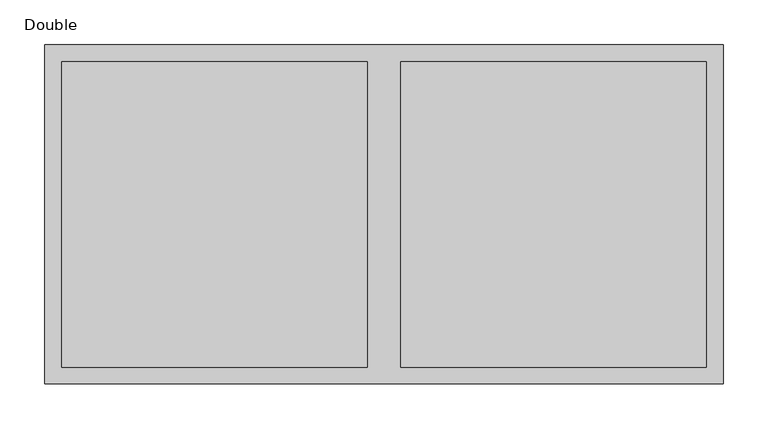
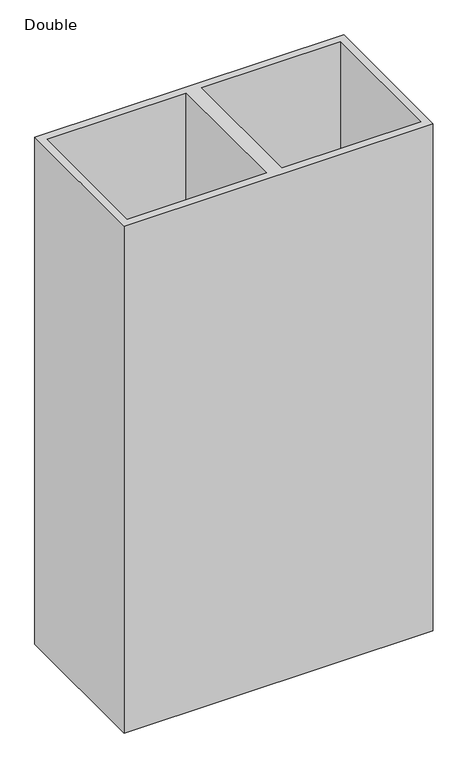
"""IFC4 building model written with IfcOpenShell, lengths in millimetres: furniture geometry, Stylex - Ambi - Planter : Double."""

from ifc_helpers import new_model, si_unit, origin, place, context, project, spatial, faceted_brep, source, transform, mapped, element, save


def double_013c9e70(model_context):
    return source(origin(), model_context, "Body", "Brep", [
        faceted_brep([(381.0, 190.5, 1320.8), (-381.0, 190.5, 1320.8), (-381.0, -190.5, 1320.8), (381.0, -190.5, 1320.8), (19.05, -171.45, 1320.8), (19.05, 171.45, 1320.8), (361.95, 171.45, 1320.8), (361.95, -171.45, 1320.8), (-19.05, 171.45, 1320.8), (-19.05, -171.45, 1320.8), (-361.95, -171.45, 1320.8), (-361.95, 171.45, 1320.8), (381.0, 190.5, 0.0), (381.0, -190.5, 0.0), (-381.0, -190.5, 0.0), (-381.0, 190.5, 0.0), (19.05, 171.45, 1041.4), (19.05, -171.45, 1041.4), (361.95, -171.45, 1041.4), (361.95, 171.45, 1041.4), (-19.05, 171.45, 1041.4), (-361.95, 171.45, 1041.4), (-361.95, -171.45, 1041.4), (-19.05, -171.45, 1041.4)], [[[0, 1, 2, 3], [4, 5, 6, 7], [8, 9, 10, 11]], [[12, 13, 14, 15]], [[1, 0, 12, 15]], [[2, 1, 15, 14]], [[3, 2, 14, 13]], [[0, 3, 13, 12]], [[16, 17, 18, 19]], [[17, 16, 5, 4]], [[18, 17, 4, 7]], [[19, 18, 7, 6]], [[16, 19, 6, 5]], [[20, 21, 22, 23]], [[20, 23, 9, 8]], [[23, 22, 10, 9]], [[22, 21, 11, 10]], [[21, 20, 8, 11]]]),
    ])


if __name__ == "__main__":
    model = new_model("IFC4")
    model_context = context("Model", 3, world=origin())
    ifc_project = project(units=[si_unit("LENGTHUNIT", "METRE", prefix="MILLI")], contexts=[model_context])
    site = spatial("IfcSite", under=ifc_project)
    building = spatial("IfcBuilding", under=site)
    placement = place(None, origin())
    double_shape = double_013c9e70(model_context)
    element("IfcFurniture", 1, ObjectType="Stylex - Ambi - Planter : Double", at=placement, inside=building, context=model_context, shape_type="MappedRepresentation", body=[
        mapped(double_shape, transform((0.0, 0.0, 0.0), x_axis=(1.0, 0.0, 0.0), y_axis=(0.0, 1.0, 0.0), z_axis=(0.0, 0.0, 1.0))),
    ])
    save(model, "model.ifc")
